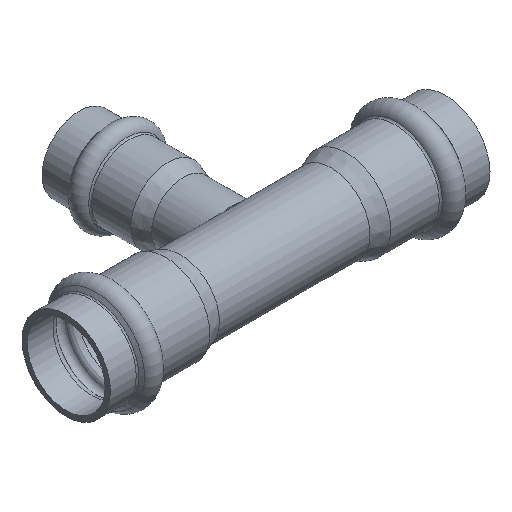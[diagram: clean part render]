
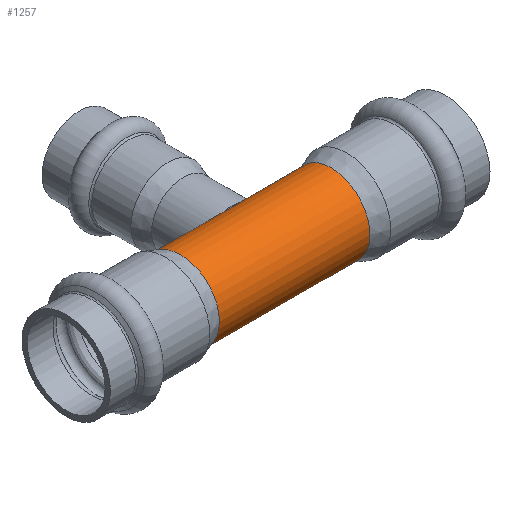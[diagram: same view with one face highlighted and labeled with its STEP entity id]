
A CAD part, isometric view. The second image highlights one B-rep face of the part: STEP entity #1257.
In plain terms, the highlighted cylindrical face has radius 11 mm (diameter 22 mm), a full revolution.
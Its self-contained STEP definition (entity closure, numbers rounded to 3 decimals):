
#198=CARTESIAN_POINT('',(0.,8.485,7.));
#199=VERTEX_POINT('',#198);
#200=CARTESIAN_POINT('',(0.,8.485,7.));
#201=CARTESIAN_POINT('',(-0.661,8.485,7.));
#202=CARTESIAN_POINT('',(-1.34,8.567,6.904));
#203=CARTESIAN_POINT('',(-1.987,8.715,6.712));
#204=CARTESIAN_POINT('',(-2.782,8.896,6.477));
#205=CARTESIAN_POINT('',(-3.529,9.172,6.098));
#206=CARTESIAN_POINT('',(-4.17,9.455,5.622));
#207=CARTESIAN_POINT('',(-4.449,9.578,5.415));
#208=CARTESIAN_POINT('',(-4.709,9.702,5.19));
#209=CARTESIAN_POINT('',(-4.945,9.821,4.955));
#210=CARTESIAN_POINT('',(-5.113,9.906,4.787));
#211=CARTESIAN_POINT('',(-5.276,9.991,4.607));
#212=CARTESIAN_POINT('',(-5.431,10.075,4.416));
#213=CARTESIAN_POINT('',(-5.886,10.32,3.857));
#214=CARTESIAN_POINT('',(-6.272,10.549,3.2));
#215=CARTESIAN_POINT('',(-6.541,10.714,2.492));
#216=CARTESIAN_POINT('',(-6.726,10.827,2.007));
#217=CARTESIAN_POINT('',(-6.857,10.91,1.497));
#218=CARTESIAN_POINT('',(-6.93,10.956,0.986));
#219=CARTESIAN_POINT('',(-6.976,10.984,0.667));
#220=CARTESIAN_POINT('',(-6.998,10.999,0.349));
#221=CARTESIAN_POINT('',(-7.,11.,0.035));
#222=CARTESIAN_POINT('',(-7.002,11.001,-0.291));
#223=CARTESIAN_POINT('',(-6.98,10.987,-0.621));
#224=CARTESIAN_POINT('',(-6.935,10.959,-0.952));
#225=CARTESIAN_POINT('',(-6.835,10.895,-1.684));
#226=CARTESIAN_POINT('',(-6.613,10.755,-2.411));
#227=CARTESIAN_POINT('',(-6.29,10.562,-3.073));
#228=CARTESIAN_POINT('',(-5.96,10.366,-3.748));
#229=CARTESIAN_POINT('',(-5.523,10.116,-4.357));
#230=CARTESIAN_POINT('',(-5.039,9.869,-4.859));
#231=CARTESIAN_POINT('',(-4.88,9.788,-5.023));
#232=CARTESIAN_POINT('',(-4.715,9.706,-5.179));
#233=CARTESIAN_POINT('',(-4.538,9.622,-5.33));
#234=CARTESIAN_POINT('',(-3.947,9.344,-5.833));
#235=CARTESIAN_POINT('',(-3.244,9.055,-6.256));
#236=CARTESIAN_POINT('',(-2.481,8.841,-6.546));
#237=CARTESIAN_POINT('',(-1.881,8.672,-6.773));
#238=CARTESIAN_POINT('',(-1.241,8.552,-6.919));
#239=CARTESIAN_POINT('',(-0.604,8.507,-6.974));
#240=CARTESIAN_POINT('',(-0.147,8.474,-7.013));
#241=CARTESIAN_POINT('',(0.306,8.479,-7.008));
#242=CARTESIAN_POINT('',(0.763,8.52,-6.958));
#243=CARTESIAN_POINT('',(1.478,8.584,-6.88));
#244=CARTESIAN_POINT('',(2.189,8.741,-6.688));
#245=CARTESIAN_POINT('',(2.843,8.949,-6.396));
#246=CARTESIAN_POINT('',(3.332,9.104,-6.179));
#247=CARTESIAN_POINT('',(3.791,9.286,-5.907));
#248=CARTESIAN_POINT('',(4.206,9.47,-5.596));
#249=CARTESIAN_POINT('',(4.438,9.573,-5.421));
#250=CARTESIAN_POINT('',(4.656,9.677,-5.235));
#251=CARTESIAN_POINT('',(4.858,9.778,-5.04));
#252=CARTESIAN_POINT('',(5.035,9.866,-4.869));
#253=CARTESIAN_POINT('',(5.203,9.953,-4.689));
#254=CARTESIAN_POINT('',(5.365,10.039,-4.496));
#255=CARTESIAN_POINT('',(5.814,10.279,-3.96));
#256=CARTESIAN_POINT('',(6.201,10.508,-3.33));
#257=CARTESIAN_POINT('',(6.48,10.677,-2.647));
#258=CARTESIAN_POINT('',(6.739,10.834,-2.014));
#259=CARTESIAN_POINT('',(6.905,10.94,-1.334));
#260=CARTESIAN_POINT('',(6.969,10.98,-0.659));
#261=CARTESIAN_POINT('',(7.011,11.007,-0.218));
#262=CARTESIAN_POINT('',(7.011,11.007,0.215));
#263=CARTESIAN_POINT('',(6.969,10.98,0.655));
#264=CARTESIAN_POINT('',(6.903,10.939,1.358));
#265=CARTESIAN_POINT('',(6.726,10.825,2.066));
#266=CARTESIAN_POINT('',(6.449,10.658,2.722));
#267=CARTESIAN_POINT('',(6.15,10.477,3.432));
#268=CARTESIAN_POINT('',(5.733,10.232,4.082));
#269=CARTESIAN_POINT('',(5.254,9.98,4.625));
#270=CARTESIAN_POINT('',(5.041,9.868,4.867));
#271=CARTESIAN_POINT('',(4.82,9.756,5.086));
#272=CARTESIAN_POINT('',(4.577,9.641,5.297));
#273=CARTESIAN_POINT('',(3.974,9.355,5.818));
#274=CARTESIAN_POINT('',(3.251,9.055,6.256));
#275=CARTESIAN_POINT('',(2.465,8.836,6.552));
#276=CARTESIAN_POINT('',(1.845,8.663,6.785));
#277=CARTESIAN_POINT('',(1.185,8.543,6.93));
#278=CARTESIAN_POINT('',(0.529,8.502,6.98));
#279=CARTESIAN_POINT('',(0.352,8.491,6.993));
#280=CARTESIAN_POINT('',(0.175,8.485,7.));
#281=CARTESIAN_POINT('',(0.0,8.485,7.));
#282=B_SPLINE_CURVE_WITH_KNOTS('',3,(#200,#201,#202,#203,#204,#205,#206,#207,#208,#209,#210,#211,#212,#213,#214,#215,#216,#217,#218,#219,#220,#221,#222,#223,#224,#225,#226,#227,#228,#229,#230,#231,#232,#233,#234,#235,#236,#237,#238,#239,#240,#241,#242,#243,#244,#245,#246,#247,#248,#249,#250,#251,#252,#253,#254,#255,#256,#257,#258,#259,#260,#261,#262,#263,#264,#265,#266,#267,#268,#269,#270,#271,#272,#273,#274,#275,#276,#277,#278,#279,#280,#281),.UNSPECIFIED.,.T.,.U.,(4,3,3,3,3,3,3,3,3,3,3,3,3,3,3,3,3,3,3,3,3,3,3,3,3,3,3,4),(0.0,0.198,0.442,0.548,0.624,0.845,0.996,1.09,1.188,1.404,1.624,1.697,1.937,2.127,2.263,2.475,2.634,2.723,2.8,3.016,3.215,3.346,3.553,3.778,3.878,4.126,4.321,4.374),.UNSPECIFIED.);
#283=EDGE_CURVE('',#199,#199,#282,.T.);
#1220=CARTESIAN_POINT('',(-21.408,11.,0.0));
#1221=VERTEX_POINT('',#1220);
#1222=CARTESIAN_POINT('',(-21.408,0.,0.0));
#1223=DIRECTION('',(1.0,0.0,0.0));
#1224=DIRECTION('',(0.0,1.0,0.0));
#1225=AXIS2_PLACEMENT_3D('',#1222,#1223,#1224);
#1226=CIRCLE('',#1225,11.);
#1227=EDGE_CURVE('',#1221,#1221,#1226,.T.);
#1235=CARTESIAN_POINT('',(0.0,0.0,0.0));
#1236=DIRECTION('',(1.0,0.,0.0));
#1237=DIRECTION('',(0.0,1.0,0.0));
#1238=AXIS2_PLACEMENT_3D('',#1235,#1236,#1237);
#1239=CYLINDRICAL_SURFACE('',#1238,11.);
#1240=CARTESIAN_POINT('',(21.408,11.,0.0));
#1241=VERTEX_POINT('',#1240);
#1242=CARTESIAN_POINT('',(21.408,0.,0.0));
#1243=DIRECTION('',(1.0,0.0,0.0));
#1244=DIRECTION('',(0.0,1.0,0.0));
#1245=AXIS2_PLACEMENT_3D('',#1242,#1243,#1244);
#1246=CIRCLE('',#1245,11.);
#1247=EDGE_CURVE('',#1241,#1241,#1246,.T.);
#1248=ORIENTED_EDGE('',*,*,#1247,.F.);
#1249=EDGE_LOOP('',(#1248));
#1250=FACE_OUTER_BOUND('',#1249,.T.);
#1251=ORIENTED_EDGE('',*,*,#283,.T.);
#1252=EDGE_LOOP('',(#1251));
#1253=FACE_BOUND('',#1252,.T.);
#1254=ORIENTED_EDGE('',*,*,#1227,.T.);
#1255=EDGE_LOOP('',(#1254));
#1256=FACE_BOUND('',#1255,.T.);
#1257=ADVANCED_FACE('',(#1250,#1253,#1256),#1239,.T.);
